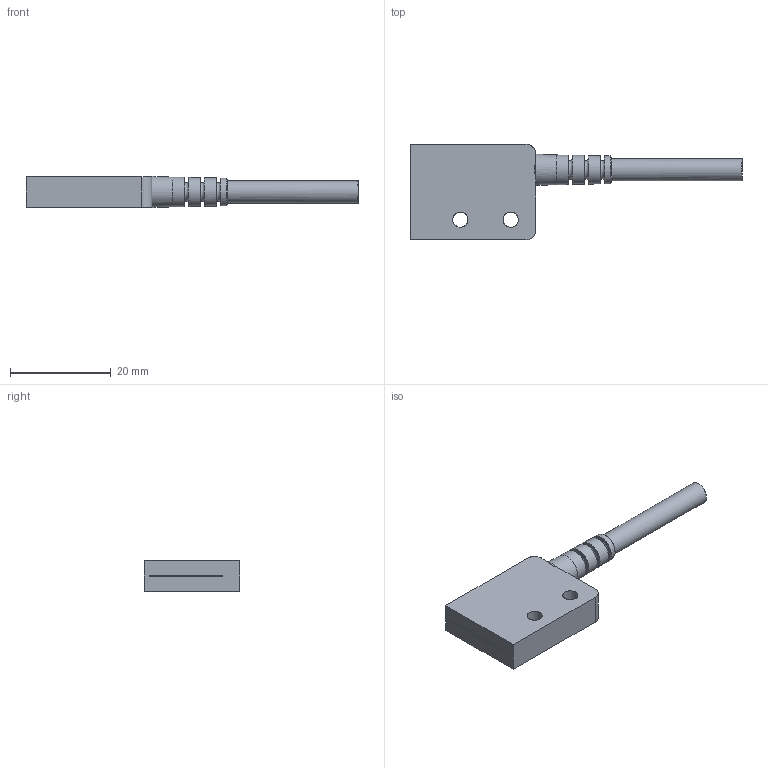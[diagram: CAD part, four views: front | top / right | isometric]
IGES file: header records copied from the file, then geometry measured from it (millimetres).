
Global section: file name: e:\Temp\web_kfx_et_20ml_20.igs; native system: NX V6.0; preprocessor: SIEMENS UGS NX 6.0; date: 20130108.105912; units: millimetre
Bounding box: 65.89 x 19 x 6.2 mm (x, y, z)
Surface area: 2239.2 mm2 (no closed solid volume)
Topology: 0 solids, 0 shells, 103 faces, 1443 edges, 1904 vertices
Faces by surface type: bspline 103
